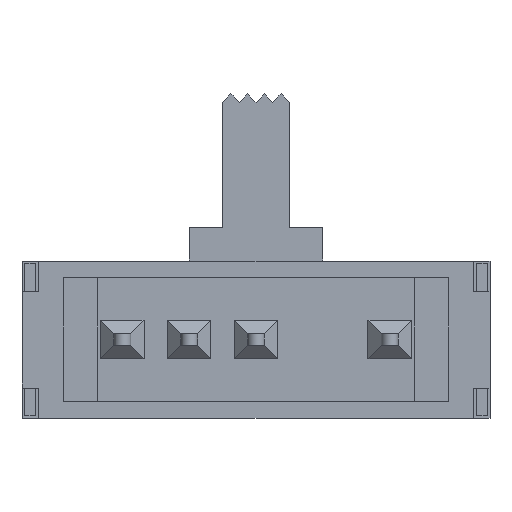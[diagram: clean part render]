
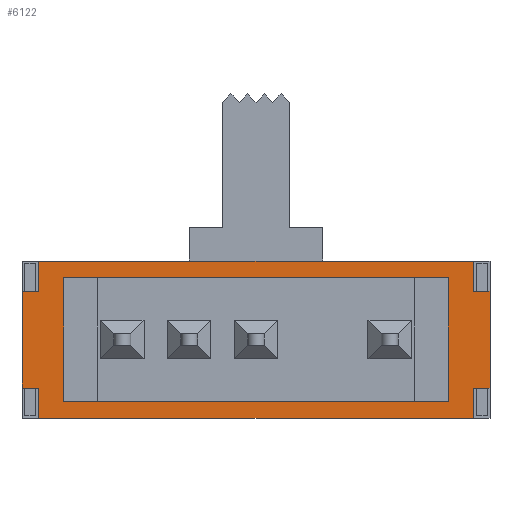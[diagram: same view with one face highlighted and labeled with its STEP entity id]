
A CAD part, front view. The second image highlights one B-rep face of the part: STEP entity #6122.
In plain terms, the highlighted planar face has unit normal (0, -1, 0).
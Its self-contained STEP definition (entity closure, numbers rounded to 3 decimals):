
#619 = CARTESIAN_POINT ( 'NONE',  ( 5.75, 1.4, 2.35 ) ) ;
#620 = LINE ( 'NONE', #619, #637 ) ;
#624 = DIRECTION ( 'NONE',  ( 0., 0., 1. ) ) ;
#637 = VECTOR ( 'NONE', #624, 1000. ) ;
#872 = LINE ( 'NONE', #875, #882 ) ;
#875 = CARTESIAN_POINT ( 'NONE',  ( -7., 1.4, 1.85 ) ) ;
#881 = DIRECTION ( 'NONE',  ( -1., 0., 0. ) ) ;
#882 = VECTOR ( 'NONE', #881, 1000. ) ;
#913 = LINE ( 'NONE', #965, #948 ) ;
#920 = CARTESIAN_POINT ( 'NONE',  ( 7., 1.4, 1.45 ) ) ;
#935 = CARTESIAN_POINT ( 'NONE',  ( 5.75, 1.4, 1.85 ) ) ;
#948 = VECTOR ( 'NONE', #964, 1000. ) ;
#964 = DIRECTION ( 'NONE',  ( 0., 0., -1. ) ) ;
#965 = CARTESIAN_POINT ( 'NONE',  ( -5.75, 1.4, 2.35 ) ) ;
#983 = CARTESIAN_POINT ( 'NONE',  ( 5.75, 1.4, -1.85 ) ) ;
#984 = CARTESIAN_POINT ( 'NONE',  ( -5.75, 1.4, -1.85 ) ) ;
#1032 = DIRECTION ( 'NONE',  ( 1., 0., 0. ) ) ;
#1033 = VECTOR ( 'NONE', #1032, 1000. ) ;
#1035 = CARTESIAN_POINT ( 'NONE',  ( -7., 1.4, -1.85 ) ) ;
#1036 = LINE ( 'NONE', #1035, #1033 ) ;
#1076 = DIRECTION ( 'NONE',  ( 0., 0., -1. ) ) ;
#1077 = VECTOR ( 'NONE', #1076, 1000. ) ;
#1078 = CARTESIAN_POINT ( 'NONE',  ( 7., 1.4, 2.35 ) ) ;
#1079 = LINE ( 'NONE', #1078, #1077 ) ;
#1199 = CARTESIAN_POINT ( 'NONE',  ( -5.75, 1.4, 1.85 ) ) ;
#1260 = VECTOR ( 'NONE', #1261, 1000. ) ;
#1261 = DIRECTION ( 'NONE',  ( 1., 0., 0. ) ) ;
#1263 = CARTESIAN_POINT ( 'NONE',  ( -7., 1.4, -1.45 ) ) ;
#1264 = LINE ( 'NONE', #1263, #1300 ) ;
#1282 = CARTESIAN_POINT ( 'NONE',  ( -7., 1.4, 1.45 ) ) ;
#1292 = LINE ( 'NONE', #1282, #1260 ) ;
#1299 = DIRECTION ( 'NONE',  ( -1., 0., 0. ) ) ;
#1300 = VECTOR ( 'NONE', #1299, 1000. ) ;
#1312 = CARTESIAN_POINT ( 'NONE',  ( 7., 1.4, -1.45 ) ) ;
#3025 = CARTESIAN_POINT ( 'NONE',  ( -6.5, 1.4, 2.35 ) ) ;
#3026 = LINE ( 'NONE', #3025, #3062 ) ;
#3062 = VECTOR ( 'NONE', #3065, 1000. ) ;
#3065 = DIRECTION ( 'NONE',  ( 0., 0., 1. ) ) ;
#3066 = CARTESIAN_POINT ( 'NONE',  ( -6.5, 1.4, 2.35 ) ) ;
#3098 = CARTESIAN_POINT ( 'NONE',  ( -6.5, 1.4, 1.45 ) ) ;
#3245 = CARTESIAN_POINT ( 'NONE',  ( -6.5, 1.4, -2.35 ) ) ;
#3273 = CARTESIAN_POINT ( 'NONE',  ( -6.5, 1.4, -1.45 ) ) ;
#3277 = VECTOR ( 'NONE', #3295, 1000. ) ;
#3287 = LINE ( 'NONE', #3296, #3277 ) ;
#3295 = DIRECTION ( 'NONE',  ( 0., 0., 1. ) ) ;
#3296 = CARTESIAN_POINT ( 'NONE',  ( -6.5, 1.4, 2.35 ) ) ;
#3601 = CARTESIAN_POINT ( 'NONE',  ( 6.5, 1.4, -1.45 ) ) ;
#3679 = CARTESIAN_POINT ( 'NONE',  ( 6.5, 1.4, 2.35 ) ) ;
#3843 = DIRECTION ( 'NONE',  ( 0., 0., 1. ) ) ;
#3845 = CARTESIAN_POINT ( 'NONE',  ( 6.5, 1.4, -2.35 ) ) ;
#3846 = LINE ( 'NONE', #3845, #3864 ) ;
#3848 = VECTOR ( 'NONE', #3843, 1000. ) ;
#3854 = CARTESIAN_POINT ( 'NONE',  ( 6.5, 1.4, -2.35 ) ) ;
#3862 = LINE ( 'NONE', #3854, #3848 ) ;
#3863 = DIRECTION ( 'NONE',  ( 0., 0., 1. ) ) ;
#3864 = VECTOR ( 'NONE', #3863, 1000. ) ;
#3899 = CARTESIAN_POINT ( 'NONE',  ( 6.5, 1.4, 1.45 ) ) ;
#3933 = CARTESIAN_POINT ( 'NONE',  ( 6.5, 1.4, -2.35 ) ) ;
#4505 = VECTOR ( 'NONE', #4509, 1000. ) ;
#4509 = DIRECTION ( 'NONE',  ( 1., 0., 0. ) ) ;
#4510 = CARTESIAN_POINT ( 'NONE',  ( -7., 1.4, 2.35 ) ) ;
#4511 = LINE ( 'NONE', #4510, #4505 ) ;
#4542 = AXIS2_PLACEMENT_3D ( 'NONE', #4566, #4565, #4588 ) ;
#4561 = PLANE ( 'NONE',  #4542 ) ;
#4565 = DIRECTION ( 'NONE',  ( 0., 1., 0. ) ) ;
#4566 = CARTESIAN_POINT ( 'NONE',  ( -7., 1.4, 2.35 ) ) ;
#4588 = DIRECTION ( 'NONE',  ( 0., 0., 1. ) ) ;
#4635 = FACE_BOUND ( 'NONE', #6109, .T. ) ;
#4642 = FACE_OUTER_BOUND ( 'NONE', #6089, .T. ) ;
#5777 = EDGE_CURVE ( 'NONE', #5797, #5829, #872, .T. ) ;
#5787 = EDGE_CURVE ( 'NONE', #5829, #5817, #913, .T. ) ;
#5797 = VERTEX_POINT ( 'NONE', #935 ) ;
#5798 = EDGE_CURVE ( 'NONE', #5816, #5797, #620, .T. ) ;
#5801 = VERTEX_POINT ( 'NONE', #920 ) ;
#5816 = VERTEX_POINT ( 'NONE', #983 ) ;
#5817 = VERTEX_POINT ( 'NONE', #984 ) ;
#5820 = EDGE_CURVE ( 'NONE', #5817, #5816, #1036, .T. ) ;
#5825 = EDGE_CURVE ( 'NONE', #5801, #5858, #1079, .T. ) ;
#5829 = VERTEX_POINT ( 'NONE', #1199 ) ;
#5838 = EDGE_CURVE ( 'NONE', #5952, #7469, #1292, .T. ) ;
#5843 = EDGE_CURVE ( 'NONE', #7502, #5888, #1264, .T. ) ;
#5858 = VERTEX_POINT ( 'NONE', #1312 ) ;
#5862 = EDGE_CURVE ( 'NONE', #5888, #5952, #6195, .T. ) ;
#5888 = VERTEX_POINT ( 'NONE', #8454 ) ;
#5900 = EDGE_CURVE ( 'NONE', #7907, #7481, #8600, .T. ) ;
#5904 = EDGE_CURVE ( 'NONE', #5858, #7817, #6978, .T. ) ;
#5952 = VERTEX_POINT ( 'NONE', #6979 ) ;
#5990 = EDGE_CURVE ( 'NONE', #7884, #5801, #7081, .T. ) ;
#6075 = ORIENTED_EDGE ( 'NONE', *, *, #7895, .T. ) ;
#6076 = ORIENTED_EDGE ( 'NONE', *, *, #5900, .F. ) ;
#6089 = EDGE_LOOP ( 'NONE', ( #6106, #6094, #6103, #6076, #6121, #6105, #6096, #6091, #6075, #6101, #6110, #6114 ) ) ;
#6091 = ORIENTED_EDGE ( 'NONE', *, *, #5990, .F. ) ;
#6092 = ORIENTED_EDGE ( 'NONE', *, *, #5820, .F. ) ;
#6094 = ORIENTED_EDGE ( 'NONE', *, *, #5843, .F. ) ;
#6095 = ORIENTED_EDGE ( 'NONE', *, *, #5798, .F. ) ;
#6096 = ORIENTED_EDGE ( 'NONE', *, *, #5825, .F. ) ;
#6097 = EDGE_CURVE ( 'NONE', #7467, #7840, #4511, .T. ) ;
#6100 = ORIENTED_EDGE ( 'NONE', *, *, #5787, .F. ) ;
#6101 = ORIENTED_EDGE ( 'NONE', *, *, #6097, .F. ) ;
#6102 = ORIENTED_EDGE ( 'NONE', *, *, #5777, .F. ) ;
#6103 = ORIENTED_EDGE ( 'NONE', *, *, #7511, .F. ) ;
#6105 = ORIENTED_EDGE ( 'NONE', *, *, #5904, .F. ) ;
#6106 = ORIENTED_EDGE ( 'NONE', *, *, #5862, .F. ) ;
#6109 = EDGE_LOOP ( 'NONE', ( #6095, #6092, #6100, #6102 ) ) ;
#6110 = ORIENTED_EDGE ( 'NONE', *, *, #7466, .F. ) ;
#6114 = ORIENTED_EDGE ( 'NONE', *, *, #5838, .F. ) ;
#6121 = ORIENTED_EDGE ( 'NONE', *, *, #7893, .T. ) ;
#6122 = ADVANCED_FACE ( 'NONE', ( #4642, #4635 ), #4561, .F. ) ;
#6193 = DIRECTION ( 'NONE',  ( 0., 0., 1. ) ) ;
#6194 = CARTESIAN_POINT ( 'NONE',  ( -7., 1.4, 2.35 ) ) ;
#6195 = LINE ( 'NONE', #6194, #6196 ) ;
#6196 = VECTOR ( 'NONE', #6193, 1000. ) ;
#6954 = VECTOR ( 'NONE', #6971, 1000. ) ;
#6971 = DIRECTION ( 'NONE',  ( -1., 0., 0. ) ) ;
#6976 = CARTESIAN_POINT ( 'NONE',  ( -7., 1.4, -1.45 ) ) ;
#6978 = LINE ( 'NONE', #6976, #6954 ) ;
#6979 = CARTESIAN_POINT ( 'NONE',  ( -7., 1.4, 1.45 ) ) ;
#7068 = DIRECTION ( 'NONE',  ( 1., 0., 0. ) ) ;
#7069 = VECTOR ( 'NONE', #7068, 1000. ) ;
#7070 = CARTESIAN_POINT ( 'NONE',  ( -7., 1.4, 1.45 ) ) ;
#7081 = LINE ( 'NONE', #7070, #7069 ) ;
#7466 = EDGE_CURVE ( 'NONE', #7469, #7467, #3026, .T. ) ;
#7467 = VERTEX_POINT ( 'NONE', #3066 ) ;
#7469 = VERTEX_POINT ( 'NONE', #3098 ) ;
#7481 = VERTEX_POINT ( 'NONE', #3245 ) ;
#7502 = VERTEX_POINT ( 'NONE', #3273 ) ;
#7511 = EDGE_CURVE ( 'NONE', #7481, #7502, #3287, .T. ) ;
#7817 = VERTEX_POINT ( 'NONE', #3601 ) ;
#7840 = VERTEX_POINT ( 'NONE', #3679 ) ;
#7884 = VERTEX_POINT ( 'NONE', #3899 ) ;
#7893 = EDGE_CURVE ( 'NONE', #7907, #7817, #3862, .T. ) ;
#7895 = EDGE_CURVE ( 'NONE', #7884, #7840, #3846, .T. ) ;
#7907 = VERTEX_POINT ( 'NONE', #3933 ) ;
#8454 = CARTESIAN_POINT ( 'NONE',  ( -7., 1.4, -1.45 ) ) ;
#8596 = DIRECTION ( 'NONE',  ( -1., 0., 0. ) ) ;
#8600 = LINE ( 'NONE', #8602, #8601 ) ;
#8601 = VECTOR ( 'NONE', #8596, 1000. ) ;
#8602 = CARTESIAN_POINT ( 'NONE',  ( -7., 1.4, -2.35 ) ) ;
